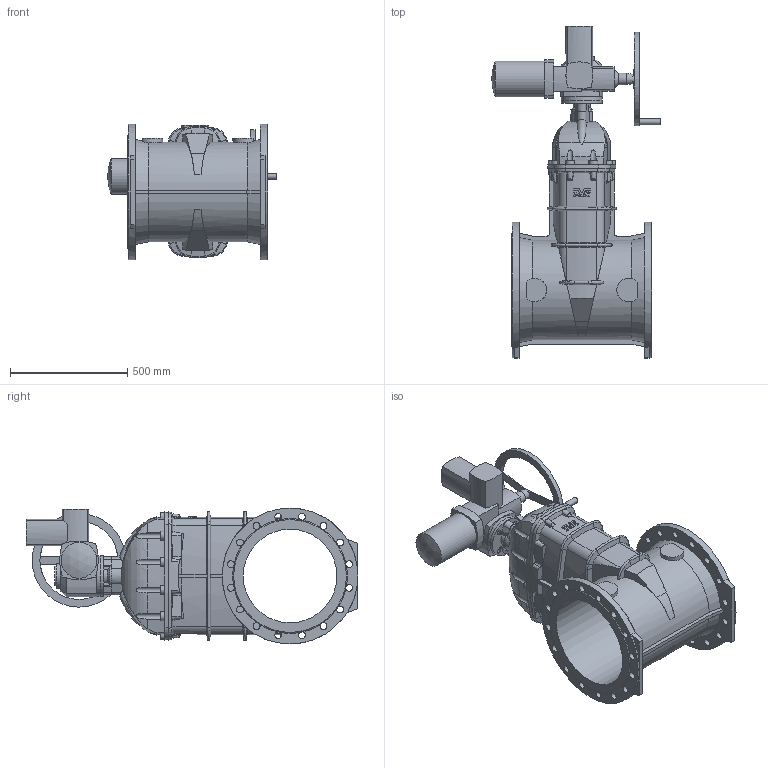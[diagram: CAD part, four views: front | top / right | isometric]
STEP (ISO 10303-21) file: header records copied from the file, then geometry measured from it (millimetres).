
FILE_DESCRIPTION (( 'STEP AP203' ), '1' );
FILE_NAME ('O_15_72_DN400_00_step with AUMA.STEP', '2015-06-11T07:46:36', ( '' ), ( '' ), 'SwSTEP 2.0', 'SolidWorks 2012', '' );
FILE_SCHEMA (( 'CONFIG_CONTROL_DESIGN' ));
Length unit declared in the file: millimetre
Products named in the file (1): O_15_72_DN400_00_step with AUMA
Bounding box: 721 x 1418 x 580 mm (x, y, z)
Volume: 96244854.3 mm3; surface area: 3812656.5 mm2
Topology: 1 solids, 1 shells, 540 faces, 1529 edges, 983 vertices
Faces by surface type: plane 199, cylinder 188, cone 106, torus 30, bspline 16, sphere 1
Full cylindrical faces by diameter (mm): 12 x4, 18 x4, 25 x1, 29.5 x32, 49.792 x1, 85 x1, 106 x1, 153 x1, 175 x2, 334 x1, 400 x2, 580 x2
Entity records: 20458 total; most frequent: CARTESIAN_POINT 7425, ORIENTED_EDGE 2842, DIRECTION 2556, EDGE_CURVE 1421, AXIS2_PLACEMENT_3D 1031, VERTEX_POINT 932, EDGE_LOOP 659, FACE_OUTER_BOUND 592
